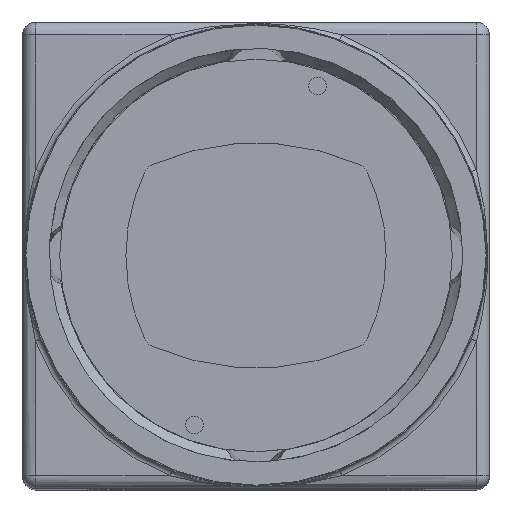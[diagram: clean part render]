
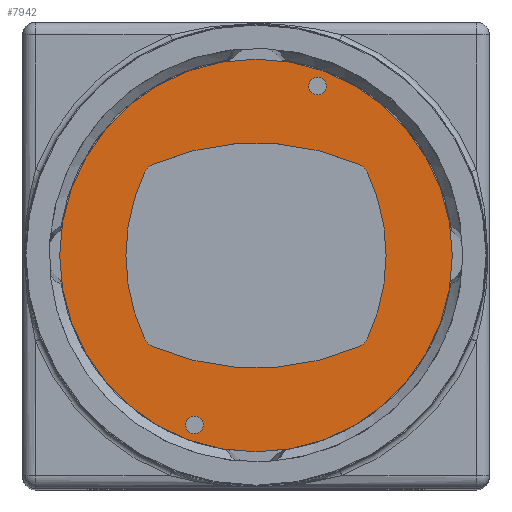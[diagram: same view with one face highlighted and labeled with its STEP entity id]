
A CAD part, top view. The second image highlights one B-rep face of the part: STEP entity #7942.
In plain terms, the highlighted planar face has unit normal (0, 0, 1).
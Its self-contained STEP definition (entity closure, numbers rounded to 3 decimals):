
#7942 = ADVANCED_FACE( '', ( #17100, #17101, #17102, #17103 ), #17104, .F. );
#17100 = FACE_OUTER_BOUND( '', #29075, .T. );
#17101 = FACE_BOUND( '', #29076, .T. );
#17102 = FACE_BOUND( '', #29077, .T. );
#17103 = FACE_BOUND( '', #29078, .T. );
#17104 = PLANE( '', #29079 );
#29075 = EDGE_LOOP( '', ( #54470 ) );
#29076 = EDGE_LOOP( '', ( #54471, #54472, #54473, #54474, #54475, #54476, #54477, #54478 ) );
#29077 = EDGE_LOOP( '', ( #54479 ) );
#29078 = EDGE_LOOP( '', ( #54480 ) );
#29079 = AXIS2_PLACEMENT_3D( '', #54481, #54482, #54483 );
#54470 = ORIENTED_EDGE( '', *, *, #70342, .F. );
#54471 = ORIENTED_EDGE( '', *, *, #74987, .T. );
#54472 = ORIENTED_EDGE( '', *, *, #75061, .T. );
#54473 = ORIENTED_EDGE( '', *, *, #64811, .T. );
#54474 = ORIENTED_EDGE( '', *, *, #75062, .T. );
#54475 = ORIENTED_EDGE( '', *, *, #75051, .T. );
#54476 = ORIENTED_EDGE( '', *, *, #75063, .T. );
#54477 = ORIENTED_EDGE( '', *, *, #75064, .T. );
#54478 = ORIENTED_EDGE( '', *, *, #71496, .T. );
#54479 = ORIENTED_EDGE( '', *, *, #66576, .F. );
#54480 = ORIENTED_EDGE( '', *, *, #69774, .T. );
#54481 = CARTESIAN_POINT( '', ( 1.907, 5.239, 5.8 ) );
#54482 = DIRECTION( '', ( 0., 0., -1. ) );
#54483 = DIRECTION( '', ( -1., 0., 0. ) );
#64811 = EDGE_CURVE( '', #77478, #77479, #77480, .T. );
#66576 = EDGE_CURVE( '', #80623, #80623, #80624, .T. );
#69774 = EDGE_CURVE( '', #85912, #85912, #85913, .T. );
#70342 = EDGE_CURVE( '', #86807, #86807, #86808, .T. );
#71496 = EDGE_CURVE( '', #88512, #88513, #88514, .T. );
#74987 = EDGE_CURVE( '', #88513, #93214, #93216, .T. );
#75051 = EDGE_CURVE( '', #93288, #93289, #93290, .T. );
#75061 = EDGE_CURVE( '', #93214, #77478, #93303, .T. );
#75062 = EDGE_CURVE( '', #77479, #93288, #93304, .T. );
#75063 = EDGE_CURVE( '', #93289, #93305, #93306, .T. );
#75064 = EDGE_CURVE( '', #93305, #88512, #93307, .T. );
#77478 = VERTEX_POINT( '', #96094 );
#77479 = VERTEX_POINT( '', #96095 );
#77480 = CIRCLE( '', #96096, 16. );
#80623 = VERTEX_POINT( '', #100542 );
#80624 = CIRCLE( '', #100543, 0.55 );
#85912 = VERTEX_POINT( '', #108749 );
#85913 = CIRCLE( '', #108750, 0.55 );
#86807 = VERTEX_POINT( '', #110098 );
#86808 = CIRCLE( '', #110099, 12.2 );
#88512 = VERTEX_POINT( '', #112624 );
#88513 = VERTEX_POINT( '', #112625 );
#88514 = CIRCLE( '', #112626, 1. );
#93214 = VERTEX_POINT( '', #119783 );
#93216 = CIRCLE( '', #119786, 12. );
#93288 = VERTEX_POINT( '', #119884 );
#93289 = VERTEX_POINT( '', #119885 );
#93290 = CIRCLE( '', #119886, 12. );
#93303 = CIRCLE( '', #119903, 1. );
#93304 = CIRCLE( '', #119904, 1. );
#93305 = VERTEX_POINT( '', #119905 );
#93306 = CIRCLE( '', #119906, 1. );
#93307 = CIRCLE( '', #119907, 16. );
#96094 = CARTESIAN_POINT( '', ( 6.414, -5.652, 5.8 ) );
#96095 = CARTESIAN_POINT( '', ( -6.414, -5.652, 5.8 ) );
#96096 = AXIS2_PLACEMENT_3D( '', #123216, #123217, #123218 );
#100542 = CARTESIAN_POINT( '', ( -3.281, -10.525, 5.8 ) );
#100543 = AXIS2_PLACEMENT_3D( '', #125405, #125406, #125407 );
#108749 = CARTESIAN_POINT( '', ( 4.381, 10.525, 5.8 ) );
#108750 = AXIS2_PLACEMENT_3D( '', #129133, #129134, #129135 );
#110098 = CARTESIAN_POINT( '', ( -12.2, 0., 5.8 ) );
#110099 = AXIS2_PLACEMENT_3D( '', #129778, #129779, #129780 );
#112624 = CARTESIAN_POINT( '', ( 6.414, 5.652, 5.8 ) );
#112625 = CARTESIAN_POINT( '', ( 6.916, 5.166, 5.8 ) );
#112626 = AXIS2_PLACEMENT_3D( '', #131093, #131094, #131095 );
#119783 = CARTESIAN_POINT( '', ( 6.916, -5.166, 5.8 ) );
#119786 = AXIS2_PLACEMENT_3D( '', #134667, #134668, #134669 );
#119884 = CARTESIAN_POINT( '', ( -6.916, -5.166, 5.8 ) );
#119885 = CARTESIAN_POINT( '', ( -6.916, 5.166, 5.8 ) );
#119886 = AXIS2_PLACEMENT_3D( '', #134735, #134736, #134737 );
#119903 = AXIS2_PLACEMENT_3D( '', #134748, #134749, #134750 );
#119904 = AXIS2_PLACEMENT_3D( '', #134751, #134752, #134753 );
#119905 = CARTESIAN_POINT( '', ( -6.414, 5.652, 5.8 ) );
#119906 = AXIS2_PLACEMENT_3D( '', #134754, #134755, #134756 );
#119907 = AXIS2_PLACEMENT_3D( '', #134757, #134758, #134759 );
#123216 = CARTESIAN_POINT( '', ( 0., 9.006, 5.8 ) );
#123217 = DIRECTION( '', ( 0., 0., -1. ) );
#123218 = DIRECTION( '', ( 1., 0., 0. ) );
#125405 = CARTESIAN_POINT( '', ( -3.831, -10.525, 5.8 ) );
#125406 = DIRECTION( '', ( 0., 0., 1. ) );
#125407 = DIRECTION( '', ( 1., 0., 0. ) );
#129133 = CARTESIAN_POINT( '', ( 3.831, 10.525, 5.8 ) );
#129134 = DIRECTION( '', ( 0., 0., -1. ) );
#129135 = DIRECTION( '', ( 1., 0., 0. ) );
#129778 = CARTESIAN_POINT( '', ( 0., 0., 5.8 ) );
#129779 = DIRECTION( '', ( 0., 0., -1. ) );
#129780 = DIRECTION( '', ( -1., 0., 0. ) );
#131093 = CARTESIAN_POINT( '', ( 6.013, 4.736, 5.8 ) );
#131094 = DIRECTION( '', ( 0., 0., -1. ) );
#131095 = DIRECTION( '', ( -1., 0., 0. ) );
#134667 = CARTESIAN_POINT( '', ( -3.915, 0., 5.8 ) );
#134668 = DIRECTION( '', ( 0., 0., -1. ) );
#134669 = DIRECTION( '', ( -1., 0., 0. ) );
#134735 = CARTESIAN_POINT( '', ( 3.915, 0., 5.8 ) );
#134736 = DIRECTION( '', ( 0., 0., -1. ) );
#134737 = DIRECTION( '', ( 1., 0., 0. ) );
#134748 = CARTESIAN_POINT( '', ( 6.013, -4.736, 5.8 ) );
#134749 = DIRECTION( '', ( 0., 0., -1. ) );
#134750 = DIRECTION( '', ( -1., 0., 0. ) );
#134751 = CARTESIAN_POINT( '', ( -6.013, -4.736, 5.8 ) );
#134752 = DIRECTION( '', ( 0., 0., -1. ) );
#134753 = DIRECTION( '', ( -1., 0., 0. ) );
#134754 = CARTESIAN_POINT( '', ( -6.013, 4.736, 5.8 ) );
#134755 = DIRECTION( '', ( 0., 0., -1. ) );
#134756 = DIRECTION( '', ( -1., 0., 0. ) );
#134757 = CARTESIAN_POINT( '', ( 0., -9.006, 5.8 ) );
#134758 = DIRECTION( '', ( 0., 0., -1. ) );
#134759 = DIRECTION( '', ( 1., 0., 0. ) );
